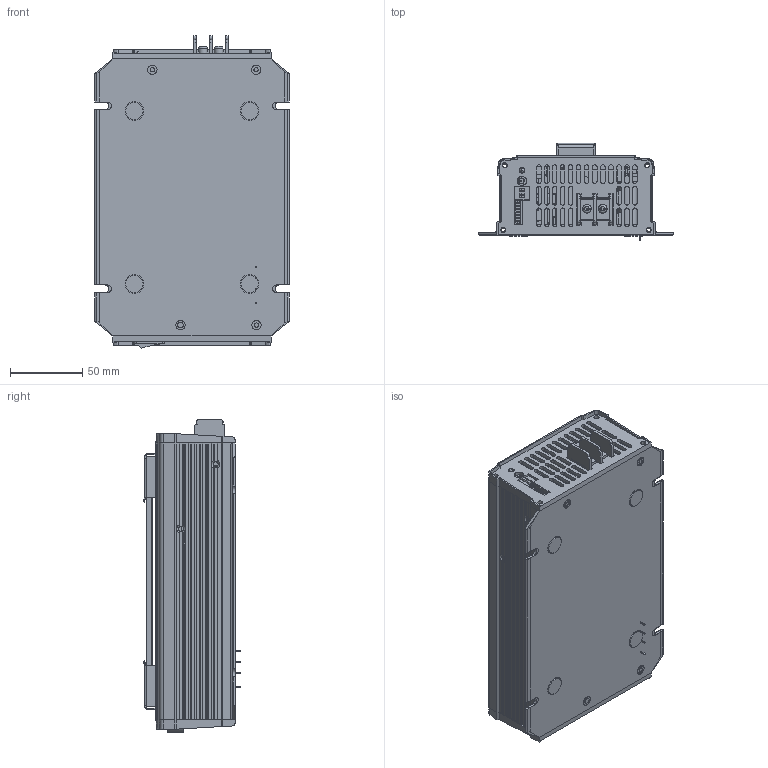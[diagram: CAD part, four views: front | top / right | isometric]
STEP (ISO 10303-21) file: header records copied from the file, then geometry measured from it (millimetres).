
FILE_DESCRIPTION(('Creo Elements/Direct Modeling STEP Export'),'2;1');
FILE_NAME('NPB-450.stp','2021-12-28T11:14:52',(''),(''),'PTC Creo Elements/Direct Modeling STEP processor for AP214 (Solid Model)','PTC Creo Elements/Direct Modeling 19.0A 04-Oct-2014 (C) Parametric Technology GmbH','');
FILE_SCHEMA(('AUTOMOTIVE_DESIGN { 1 0 10303 214 1 1 1 1 }'));
Length unit declared in the file: millimetre
Products named in the file (111): p1; 1.4; 1.5; 1.3; 1.2; 1.1; 1.6; 2.2; 2.1; 2.5; 2.4; 2.3; 2.6; 1.7; 2.7; DH2L-14; DP1.1; LED1; GF063X.1; PCBB装配设变; ON.PRT.1; 26D77668-81B1-466B-87E3--601440.PRT; FAN; ghjk.1.1; TN_1_1_1.PRT.1; GBJ; TR; TF; TU-301-SP-STA715_23.PRT; TN-M10_16.PRT; GP-TU301-Y5S_3.PRT; GP-TU301-Y10L_3.PRT; GP-TU-301-A4_3_1.PRT; GP-TU-301-A4_3_2.PRT; GP-TU-301-A4_3.ASM; GP-TU301-D4_3.PRT; TU-301-SP-STA715-AD4-M10_ASM_5.ASM; TU-301; 11; TR1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
Assembly tree (111 placements, depth 6):
  NPB-450
    NPB-450面板-0508
      1xx3NPB-450-O-20210511.stp
        1xx3NPB-450-O-0511
      1xx3NPB-450-I-0508
    MS1.1.1
    RR
    PCB
      PCBB
      PCBC
      PCBA
    1HH
      1HH2NPB-450B
      1HH2NPB-450A
      1HH125x60x0.3
      1HH135x56x0.3
    RR.1
    MOS
      TO220-1.2.1.1.1.1.2.1.1.2
      TO220-1.2.1.1.1.1.2.1.1.2.1
      MS1.1
      TO220-1.2.1.1.1.1.2.1.1.1.1.1.1.1
      TO220-1.2.1.1.1.1.2.1.1.1.1.1.1
      TO220-1.2.1.1.1.1.2.1.1.1.1.1
      TO220-1.2.1.1.1.1.2.1.1
      TO220-1.2.1.1.1.1.2.1.1.1.1
      TO220-1.2.1.1.1.1.2.1.1.1
      TO220-1.2.1.1.1.1.2
      TO220-1.2.1.1.1.1.2.1
    CASE
      下盖.1
        M3-5.5
        M3-5.5-1
        M3-5.5-2
        M4-5.5-1
        CASE下盖
      __.stp
        _X2_628A624B_X0_.ASM
          GUWEI1_1.PRT
          GUWEI1.PRT
          174.PRT
      下盖
        M3-5.5
        M3-5.5-1
        M3-5.5-2
        M4-5.5-1
        CASE下盖
      PAD
        FOOT_PAD_7_1.PRT.30
        FOOT_PAD_7_1.PRT.31
        FOOT_PAD_7_1.PRT
        FOOT_PAD_7_1.PRT.29
      上盖
    1GG
      1GG4CU-SZ034
        HS-SZ131
      1GG1HS-SZ136
        PIN2-2.2.1
        HS-SZ1
        PIN2-2.2.1.1
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Bounding box: 135 x 67.75 x 216.93 mm (x, y, z)
Volume: 471548.5 mm3; surface area: 462913.4 mm2
Topology: 91 solids, 91 shells, 3372 faces, 8944 edges, 5864 vertices
Faces by surface type: plane 2299, cylinder 796, cone 226, torus 44, bspline 6, extrusion 1
Entity records: 105186 total; most frequent: CARTESIAN_POINT 19679, ORIENTED_EDGE 17794, DIRECTION 16210, EDGE_CURVE 8888, VECTOR 6290, LINE 6289, VERTEX_POINT 5824, AXIS2_PLACEMENT_3D 4960
